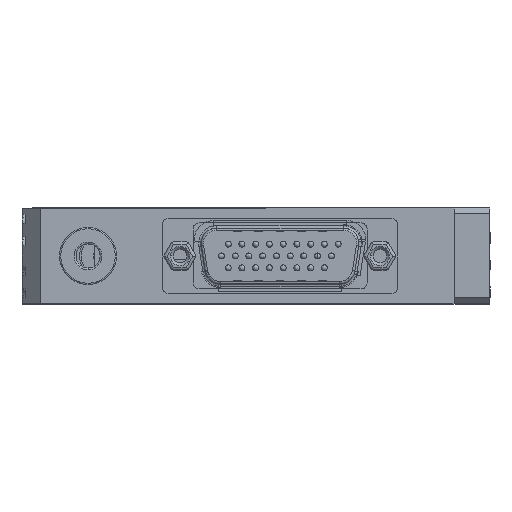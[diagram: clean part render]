
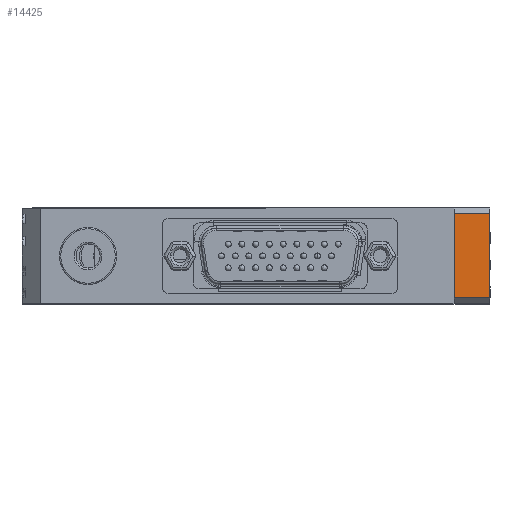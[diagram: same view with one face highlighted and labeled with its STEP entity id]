
A CAD part, left-side view. The second image highlights one B-rep face of the part: STEP entity #14425.
In plain terms, the highlighted planar face has unit normal (-1, 0, 0).
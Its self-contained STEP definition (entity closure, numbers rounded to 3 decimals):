
#3383 = CARTESIAN_POINT ( 'NONE',  ( -154.899, -19.7, 8. ) ) ;
#4909 = EDGE_CURVE ( 'NONE', #6747, #51808, #27958, .T. ) ;
#6314 = DIRECTION ( 'NONE',  ( 0., 1., 0. ) ) ;
#6747 = VERTEX_POINT ( 'NONE', #15829 ) ;
#7078 = LINE ( 'NONE', #35419, #41185 ) ;
#8840 = ORIENTED_EDGE ( 'NONE', *, *, #22058, .T. ) ;
#11286 = FACE_OUTER_BOUND ( 'NONE', #45381, .T. ) ;
#14425 = ADVANCED_FACE ( 'NONE', ( #11286 ), #15371, .F. ) ;
#15371 = PLANE ( 'NONE',  #26993 ) ;
#15829 = CARTESIAN_POINT ( 'NONE',  ( -154.899, -25.7, 7. ) ) ;
#16228 = CARTESIAN_POINT ( 'NONE',  ( -154.899, -25.7, 8. ) ) ;
#17439 = VERTEX_POINT ( 'NONE', #25921 ) ;
#22058 = EDGE_CURVE ( 'NONE', #6747, #17439, #34643, .T. ) ;
#22725 = LINE ( 'NONE', #26014, #23086 ) ;
#23066 = EDGE_CURVE ( 'NONE', #24830, #51808, #22725, .T. ) ;
#23086 = VECTOR ( 'NONE', #43171, 1000. ) ;
#24830 = VERTEX_POINT ( 'NONE', #41175 ) ;
#25421 = VECTOR ( 'NONE', #44577, 1000. ) ;
#25921 = CARTESIAN_POINT ( 'NONE',  ( -154.899, -19.7, 7. ) ) ;
#26014 = CARTESIAN_POINT ( 'NONE',  ( -154.899, -19.7, -7. ) ) ;
#26993 = AXIS2_PLACEMENT_3D ( 'NONE', #3383, #52448, #53249 ) ;
#27012 = CARTESIAN_POINT ( 'NONE',  ( -154.899, -19.7, 7. ) ) ;
#27523 = DIRECTION ( 'NONE',  ( 0., 0., -1. ) ) ;
#27689 = EDGE_CURVE ( 'NONE', #17439, #24830, #7078, .T. ) ;
#27958 = LINE ( 'NONE', #16228, #25421 ) ;
#28508 = ORIENTED_EDGE ( 'NONE', *, *, #27689, .T. ) ;
#34643 = LINE ( 'NONE', #27012, #36924 ) ;
#35327 = ORIENTED_EDGE ( 'NONE', *, *, #23066, .T. ) ;
#35419 = CARTESIAN_POINT ( 'NONE',  ( -154.899, -19.7, 8. ) ) ;
#36924 = VECTOR ( 'NONE', #6314, 1000. ) ;
#41175 = CARTESIAN_POINT ( 'NONE',  ( -154.899, -19.7, -7. ) ) ;
#41185 = VECTOR ( 'NONE', #27523, 1000. ) ;
#43171 = DIRECTION ( 'NONE',  ( 0., -1., 0. ) ) ;
#44577 = DIRECTION ( 'NONE',  ( 0., 0., -1. ) ) ;
#45381 = EDGE_LOOP ( 'NONE', ( #46359, #8840, #28508, #35327 ) ) ;
#46359 = ORIENTED_EDGE ( 'NONE', *, *, #4909, .F. ) ;
#51808 = VERTEX_POINT ( 'NONE', #53017 ) ;
#52448 = DIRECTION ( 'NONE',  ( 1., 0., 0. ) ) ;
#53017 = CARTESIAN_POINT ( 'NONE',  ( -154.899, -25.7, -7. ) ) ;
#53249 = DIRECTION ( 'NONE',  ( 0., 1., 0. ) ) ;
